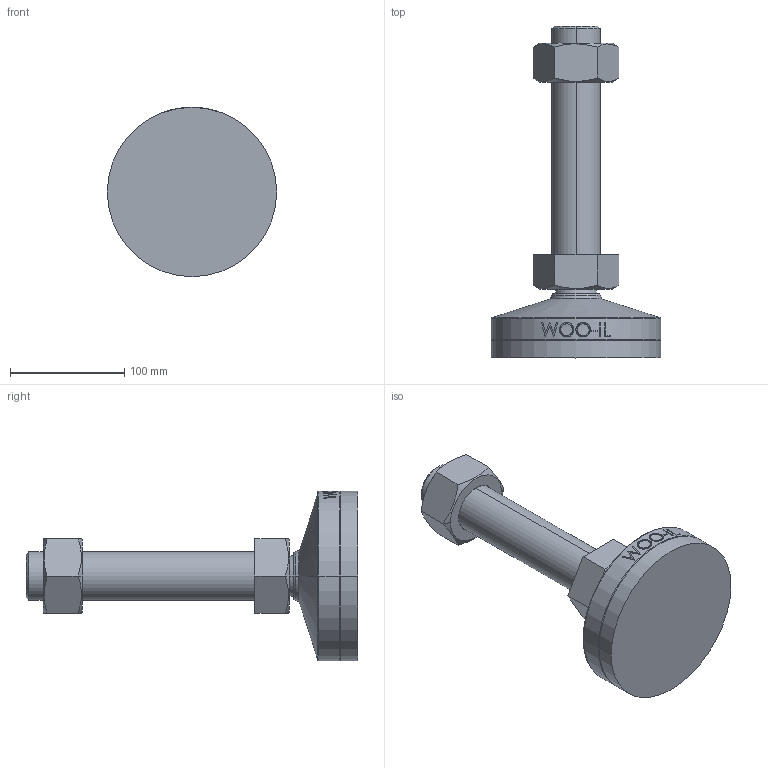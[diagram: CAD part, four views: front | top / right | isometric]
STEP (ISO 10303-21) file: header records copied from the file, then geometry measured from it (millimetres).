
FILE_DESCRIPTION (( 'STEP AP214' ), '1' );
FILE_NAME ('MFNR148-M42-200.step', '2021-02-22T09:05:37', ( '' ), ( '' ), 'SwSTEP 2.0', 'SolidWorks 2019', '' );
FILE_SCHEMA (( 'AUTOMOTIVE_DESIGN' ));
Length unit declared in the file: millimetre
Products named in the file (2): MFNR148-M42-200
Bounding box: 148 x 290 x 148 mm (x, y, z)
Volume: 1206255 mm3; surface area: 107122.9 mm2
Topology: 2 solids, 2 shells, 103 faces, 239 edges, 152 vertices
Faces by surface type: plane 47, cone 18, cylinder 16, bspline 16, torus 4, sphere 2
Entity records: 4657 total; most frequent: CARTESIAN_POINT 2378, ORIENTED_EDGE 478, DIRECTION 423, EDGE_CURVE 239, AXIS2_PLACEMENT_3D 161, VERTEX_POINT 152, EDGE_LOOP 117, FACE_OUTER_BOUND 103
